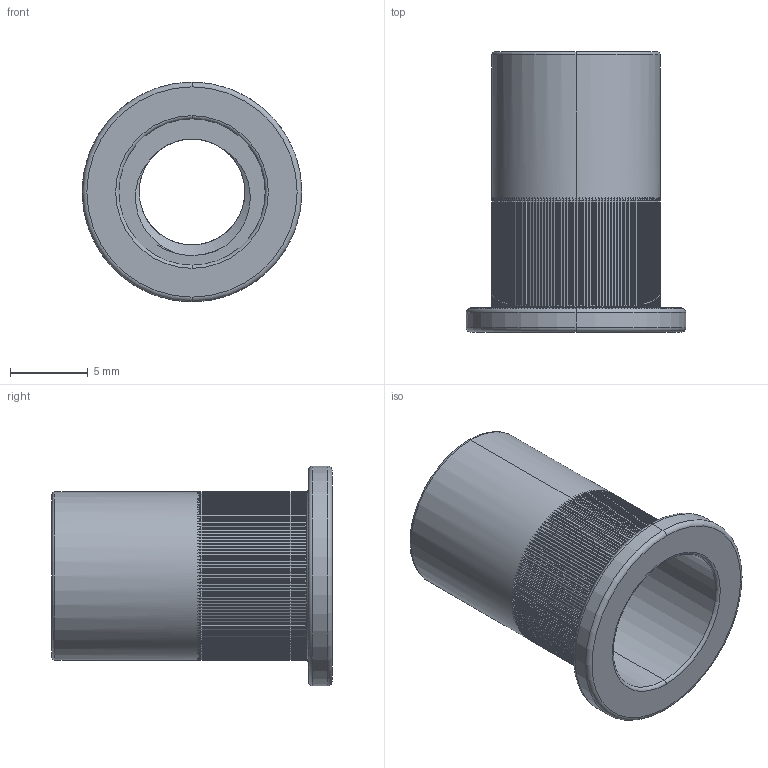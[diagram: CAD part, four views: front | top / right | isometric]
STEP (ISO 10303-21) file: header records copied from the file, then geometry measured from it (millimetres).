
FILE_DESCRIPTION (( 'STEP AP203' ), '1' );
FILE_NAME ('TANR-304-M8.STEP', '2026-08-24T08:49:21', ( '' ), ( '' ), 'SwSTEP 2.0', 'SolidWorks 2020', '' );
FILE_SCHEMA (( 'CONFIG_CONTROL_DESIGN' ));
Length unit declared in the file: millimetre
Products named in the file (1): TANR-304-M8
Bounding box: 14.1 x 18 x 14.1 mm (x, y, z)
Volume: 764.9 mm3; surface area: 1499.4 mm2
Topology: 1 solids, 1 shells, 1802 faces, 4540 edges, 2742 vertices
Faces by surface type: cone 1042, plane 724, cylinder 23, torus 10, bspline 3
Entity records: 57356 total; most frequent: CARTESIAN_POINT 16751, ORIENTED_EDGE 9080, DIRECTION 7570, EDGE_CURVE 4540, VERTEX_POINT 2742, AXIS2_PLACEMENT_3D 2713, LINE 2144, VECTOR 2144
